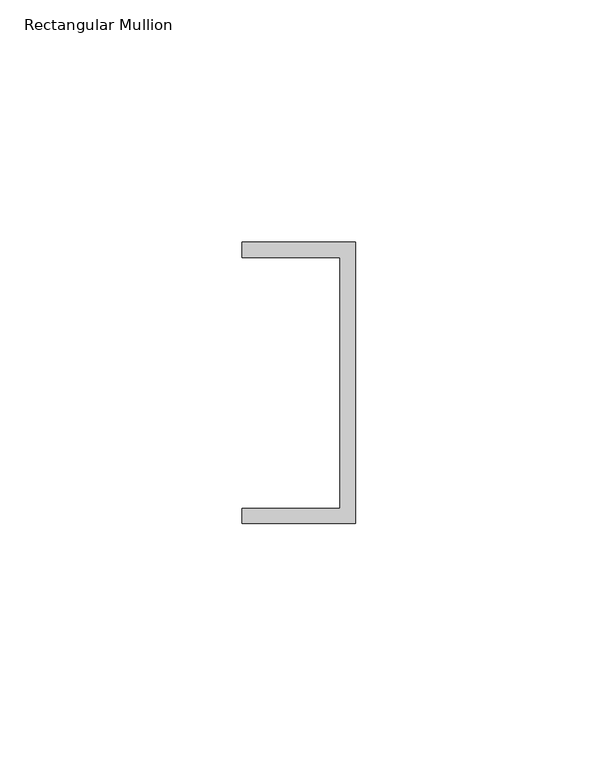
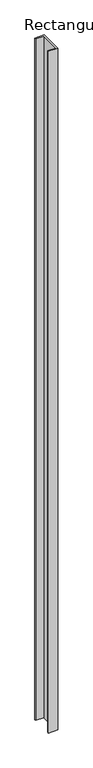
"""IFC4 building model written with IfcOpenShell, lengths in millimetres: member geometry, Rectangular Mullion : Frame-Teknion-Altos-Base_Channel."""

from ifc_helpers import new_model, si_unit, frame, origin, place, context, project, spatial, polyline, outline, extrude, source, transform, mapped, element, save


def rectangular_mullion_663af9d0(model_context):
    return source(origin(), model_context, "Body", "SweptSolid", [
        extrude(outline(polyline([(0.0, 29.0214844), (0.0, -29.0214844), (-23.3164063, -29.0214844), (-23.3164063, -25.8464844), (-3.175, -25.8464844), (-3.175, 25.8464844), (-23.3164063, 25.8464844), (-23.3164063, 29.0214844), (0.0, 29.0214844)])), frame((0.0, 0.0, -1786.8304687), z_axis=(0.0, 0.0, 1.0), x_axis=(1.0, 0.0, 0.0)), (0.0, 0.0, 1.0), 1786.8304688),
    ])


if __name__ == "__main__":
    model = new_model("IFC4")
    model_context = context("Model", 3, world=origin())
    ifc_project = project(units=[si_unit("LENGTHUNIT", "METRE", prefix="MILLI")], contexts=[model_context])
    site = spatial("IfcSite", under=ifc_project)
    building = spatial("IfcBuilding", under=site)
    placement = place(None, origin())
    rectangular_mullion_shape = rectangular_mullion_663af9d0(model_context)
    element("IfcMember", 1, ObjectType="Rectangular Mullion : Frame-Teknion-Altos-Base_Channel", at=placement, inside=building, context=model_context, shape_type="MappedRepresentation", body=[
        mapped(rectangular_mullion_shape, transform((0.0, 0.0, 0.0), x_axis=(1.0, 0.0, 0.0), y_axis=(0.0, 1.0, 0.0), z_axis=(0.0, 0.0, 1.0))),
    ])
    save(model, "model.ifc")
